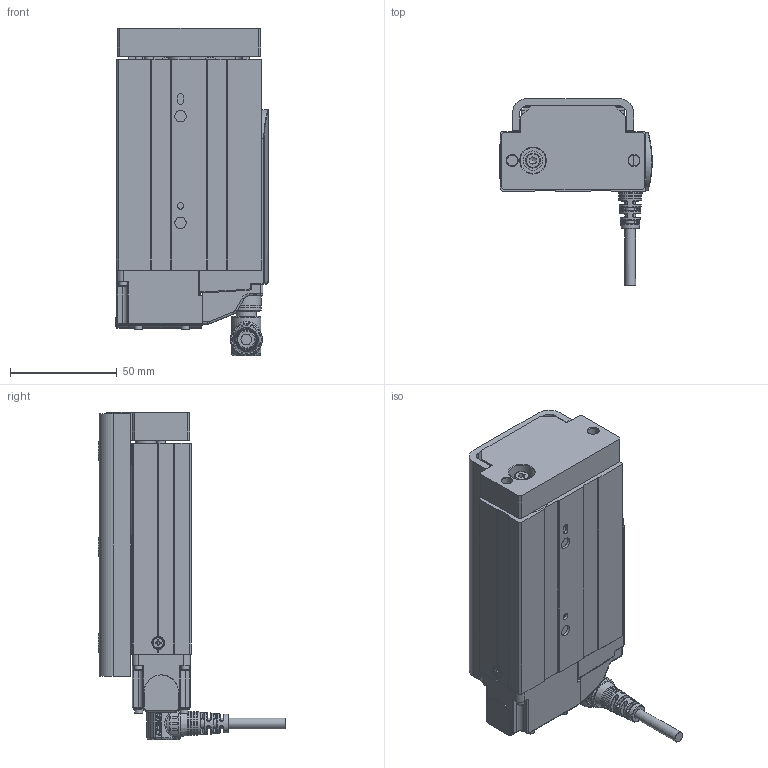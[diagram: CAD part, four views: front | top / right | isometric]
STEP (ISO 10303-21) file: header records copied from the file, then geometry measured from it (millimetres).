
FILE_DESCRIPTION(/* description */ ('STEP AP203'),/* implementation_level */ '2;1');
FILE_NAME(/* name */ 'D:\暫\2025.02.06 CSG 3D\CSG25-B\CSG25-S50-B-WM.stp',/* time_stamp */ '2025-02-08T10:34:14+08:00',/* author */ ('T10033'),/* organization */ (''),/* preprocessor_version */ 'ST-DEVELOPER v18.1',/* originating_system */ 'Autodesk Inventor 2020',/* authorisation */ '');
FILE_SCHEMA (('CONFIG_CONTROL_DESIGN'));
Products named in the file (29): CSG25-50行程-煞車; ©T©wªO-·¥­­¾×ª
O4-M2¤ú; M12 -14PIN  ªOºÝ-²Ä¤@ºØ
³W®æ; CSG25-50¥»Åé3ª©-ªo¤Õ
½Õ¾ã¨¤«×; countersunk flat head cross recess screw_iso_ISO 7046-1 - M2.5 x 4 - 
Z - 4N; ¶ì½¦ºÝ»-L¼Ë¦¡(TOYO)-°
t¦XPCB(·Ù¨®¥Î)-DF3±µÀYª½
±µ©ñ¤Jª©; IS 2269 - M2 x 10; ISO 4762 - M2.5 x 6ISO; PCB; 423T324GV F; 22024-000496; plain washer 10673 type snl_iso_ISO 10673-4.55-S; 22035-000061(G4ªo¯]); countersunk flat head cross recess screw_iso_ISO 7046-1 - M2.5 x 4 - 
Z - 4N_1; plain washer 10673 type snl_iso_ISO 10673-2.75-S; socket head cap screw_iso_ISO 4762 M2.5 x 5 - 5N; ©T©wªO-·¥­­¾×ª
O4-M2¤ú_1; socket head cap screw_iso_ISO 4762 M2.5 x 6 - 6N; socket head cap screw_iso_ISO 4762 M2.5 x 8 - 8N; socket head cap screw_iso_ISO 4762 M2 x 12 - 12N; M12 -14PIN  ªOºÝ-²Ä¤@ºØ
³W®æ_1; CSG25-50¥»Åé3ª©-ªo¤Õ
½Õ¾ã¨¤«×_1; 12003-000221-­×§ï; CSG25-Carriage-newtype; CNS 3932 - M 4 x 0.7 x 12; CNS 4558 - M5 x 0.8 x 12; Solid1-2; 43T34 TFSDR_Shrinkwrap_1; M12-14PIN 線端90度接頭-05中繼線
Assembly tree (40 placements, depth 3):
  CSG25-50行程-煞車
    ©T©wªO-·¥­­¾×ª
O4-M2¤ú
    M12 -14PIN  ªOºÝ-²Ä¤@ºØ
³W®æ
    CSG25-50¥»Åé3ª©-ªo¤Õ
½Õ¾ã¨¤«×
    countersunk flat head cross recess screw_iso_ISO 7046-1 - M2.5 x 4 - 
Z - 4N
    ¶ì½¦ºÝ»-L¼Ë¦¡(TOYO)-°
t¦XPCB(·Ù¨®¥Î)-DF3±µÀYª½
±µ©ñ¤Jª©
    IS 2269 - M2 x 10  x2
    ISO 4762 - M2.5 x 6ISO  x2
    PCB
    423T324GV F
      22024-000496
      plain washer 10673 type snl_iso_ISO 10673-4.55-S
      22035-000061(G4ªo¯])
      socket head cap screw_iso_ISO 4762 M2.5 x 8 - 8N  x8
      countersunk flat head cross recess screw_iso_ISO 7046-1 - M2.5 x 4 - 
Z - 4N_1
      plain washer 10673 type snl_iso_ISO 10673-2.75-S
      socket head cap screw_iso_ISO 4762 M2.5 x 5 - 5N
      ©T©wªO-·¥­­¾×ª
O4-M2¤ú_1
      socket head cap screw_iso_ISO 4762 M2.5 x 6 - 6N  x2
      socket head cap screw_iso_ISO 4762 M2 x 12 - 12N  x2
      M12 -14PIN  ªOºÝ-²Ä¤@ºØ
³W®æ_1
      CSG25-50¥»Åé3ª©-ªo¤Õ
½Õ¾ã¨¤«×_1
      12003-000221-­×§ï
      CSG25-Carriage-newtype
      CNS 3932 - M 4 x 0.7 x 12
      CNS 4558 - M5 x 0.8 x 12  x2
      Solid1-2
    43T34 TFSDR_Shrinkwrap_1
    M12-14PIN 線端90度接頭-05中繼線
Bounding box: 71.25 x 87.53 x 153 mm (x, y, z)
Volume: 376706.2 mm3; surface area: 131182.7 mm2
Topology: 54 solids, 62 shells, 3435 faces, 9442 edges, 6261 vertices
Faces by surface type: plane 1715, cylinder 727, bspline 482, cone 351, torus 147, sphere 13
Full cylindrical faces by diameter (mm): 0.6 x28, 0.65 x14, 1 x14, 1.567 x1, 1.6 x8, 2 x6, 2.05 x13, 2.5 x21, 2.75 x1, 2.9 x2, 3 x4, 3.8 x10, 4 x1, 4.134 x8, 4.5 x15, 4.55 x1, 4.7 x2, 4.95 x1, 5 x9, 5.2 x1, 5.3 x2, 5.4 x6, 5.5 x4, 6 x5, 7 x3, 8 x1, 8.9 x1, 9 x13, 9.5 x2, 9.6 x1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
Entity records: 130629 total; most frequent: CARTESIAN_POINT 46450, ORIENTED_EDGE 17593, DIRECTION 16442, EDGE_CURVE 8815, AXIS2_PLACEMENT_3D 5946, VERTEX_POINT 5882, LINE 4550, VECTOR 4550
